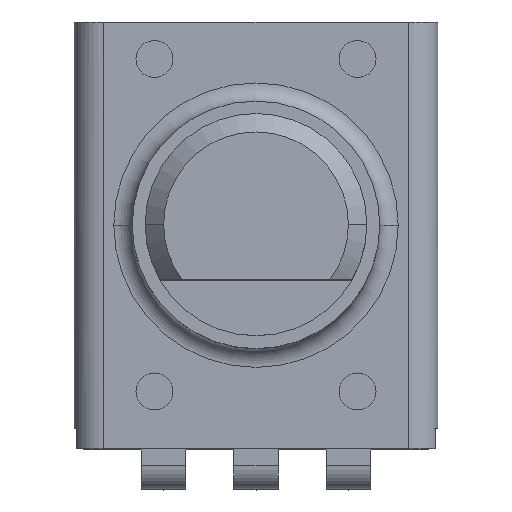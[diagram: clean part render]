
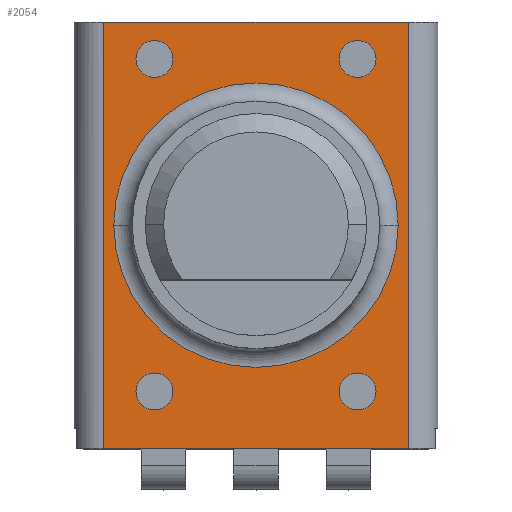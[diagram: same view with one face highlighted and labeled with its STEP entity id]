
A CAD part, top view. The second image highlights one B-rep face of the part: STEP entity #2054.
In plain terms, the highlighted planar face has unit normal (0, 0, 1).
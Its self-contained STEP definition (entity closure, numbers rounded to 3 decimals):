
#153 = FACE_BOUND ( 'NONE', #12612, .T. ) ;
#273 = AXIS2_PLACEMENT_3D ( 'NONE', #11694, #4042, #1233 ) ;
#540 = AXIS2_PLACEMENT_3D ( 'NONE', #6388, #12444, #3274 ) ;
#655 = VERTEX_POINT ( 'NONE', #6150 ) ;
#677 = DIRECTION ( 'NONE',  ( 1., 0., 0. ) ) ;
#858 = CIRCLE ( 'NONE', #4998, 0.5 ) ;
#949 = AXIS2_PLACEMENT_3D ( 'NONE', #9817, #9915, #677 ) ;
#1085 = AXIS2_PLACEMENT_3D ( 'NONE', #4431, #19474, #8788 ) ;
#1221 = CARTESIAN_POINT ( 'NONE',  ( -4.125, -6.05, 6.8 ) ) ;
#1233 = DIRECTION ( 'NONE',  ( 1., 0., 0. ) ) ;
#1238 = ORIENTED_EDGE ( 'NONE', *, *, #5822, .T. ) ;
#1321 = ORIENTED_EDGE ( 'NONE', *, *, #11795, .T. ) ;
#1511 = VERTEX_POINT ( 'NONE', #1221 ) ;
#1935 = CARTESIAN_POINT ( 'NONE',  ( -2.75, -4.5, 6.8 ) ) ;
#1951 = CIRCLE ( 'NONE', #949, 3.85 ) ;
#2054 = ADVANCED_FACE ( 'NONE', ( #3020, #15386, #7760, #13889, #153, #6236 ), #6545, .T. ) ;
#2104 = DIRECTION ( 'NONE',  ( 0., 0., -1. ) ) ;
#2107 = VERTEX_POINT ( 'NONE', #19353 ) ;
#2160 = EDGE_CURVE ( 'NONE', #655, #2107, #14743, .T. ) ;
#2636 = VERTEX_POINT ( 'NONE', #9306 ) ;
#2993 = VERTEX_POINT ( 'NONE', #14380 ) ;
#3020 = FACE_BOUND ( 'NONE', #11289, .T. ) ;
#3036 = AXIS2_PLACEMENT_3D ( 'NONE', #19082, #11497, #9989 ) ;
#3274 = DIRECTION ( 'NONE',  ( 1., 0., 0. ) ) ;
#3334 = CIRCLE ( 'NONE', #14536, 3.85 ) ;
#3352 = CARTESIAN_POINT ( 'NONE',  ( 2.75, 4.5, 6.8 ) ) ;
#3394 = DIRECTION ( 'NONE',  ( -1., 0., 0. ) ) ;
#3618 = ORIENTED_EDGE ( 'NONE', *, *, #17534, .T. ) ;
#3638 = CARTESIAN_POINT ( 'NONE',  ( 7.769, 3.35, 6.8 ) ) ;
#4042 = DIRECTION ( 'NONE',  ( 0., 0., 1. ) ) ;
#4076 = CARTESIAN_POINT ( 'NONE',  ( -3.25, -4.5, 6.8 ) ) ;
#4262 = VERTEX_POINT ( 'NONE', #17225 ) ;
#4421 = DIRECTION ( 'NONE',  ( 1., 0., 0. ) ) ;
#4431 = CARTESIAN_POINT ( 'NONE',  ( -2.75, 4.5, 6.8 ) ) ;
#4471 = VERTEX_POINT ( 'NONE', #9078 ) ;
#4624 = CARTESIAN_POINT ( 'NONE',  ( -4.125, 3.35, 6.8 ) ) ;
#4781 = VECTOR ( 'NONE', #13878, 1000. ) ;
#4813 = ORIENTED_EDGE ( 'NONE', *, *, #12793, .F. ) ;
#4998 = AXIS2_PLACEMENT_3D ( 'NONE', #10281, #16370, #4421 ) ;
#5021 = EDGE_LOOP ( 'NONE', ( #1238, #13233, #5501, #7942 ) ) ;
#5501 = ORIENTED_EDGE ( 'NONE', *, *, #17193, .T. ) ;
#5822 = EDGE_CURVE ( 'NONE', #1511, #655, #16163, .T. ) ;
#5828 = CIRCLE ( 'NONE', #12928, 0.5 ) ;
#6013 = ORIENTED_EDGE ( 'NONE', *, *, #15779, .F. ) ;
#6150 = CARTESIAN_POINT ( 'NONE',  ( 4.125, -6.05, 6.8 ) ) ;
#6236 = FACE_OUTER_BOUND ( 'NONE', #5021, .T. ) ;
#6388 = CARTESIAN_POINT ( 'NONE',  ( 2.75, -4.5, 6.8 ) ) ;
#6395 = VERTEX_POINT ( 'NONE', #9889 ) ;
#6414 = ORIENTED_EDGE ( 'NONE', *, *, #7709, .F. ) ;
#6545 = PLANE ( 'NONE',  #17341 ) ;
#7068 = VECTOR ( 'NONE', #16074, 1000. ) ;
#7441 = AXIS2_PLACEMENT_3D ( 'NONE', #3352, #9185, #9486 ) ;
#7678 = EDGE_CURVE ( 'NONE', #14490, #4262, #18321, .T. ) ;
#7709 = EDGE_CURVE ( 'NONE', #4262, #14490, #5828, .T. ) ;
#7760 = FACE_BOUND ( 'NONE', #14137, .T. ) ;
#7942 = ORIENTED_EDGE ( 'NONE', *, *, #18742, .F. ) ;
#7998 = EDGE_LOOP ( 'NONE', ( #17415, #4813 ) ) ;
#8149 = DIRECTION ( 'NONE',  ( 0., 0., 1. ) ) ;
#8309 = EDGE_CURVE ( 'NONE', #2636, #12919, #11683, .T. ) ;
#8788 = DIRECTION ( 'NONE',  ( 1., 0., 0. ) ) ;
#9078 = CARTESIAN_POINT ( 'NONE',  ( -3.85, 0., 6.8 ) ) ;
#9083 = CARTESIAN_POINT ( 'NONE',  ( 3.25, -4.5, 6.8 ) ) ;
#9185 = DIRECTION ( 'NONE',  ( 0., 0., 1. ) ) ;
#9229 = CIRCLE ( 'NONE', #273, 0.5 ) ;
#9306 = CARTESIAN_POINT ( 'NONE',  ( -2.25, 4.5, 6.8 ) ) ;
#9486 = DIRECTION ( 'NONE',  ( 1., 0., 0. ) ) ;
#9594 = ORIENTED_EDGE ( 'NONE', *, *, #13196, .F. ) ;
#9817 = CARTESIAN_POINT ( 'NONE',  ( 0., 0., 6.8 ) ) ;
#9839 = CARTESIAN_POINT ( 'NONE',  ( 0., 0., 6.8 ) ) ;
#9889 = CARTESIAN_POINT ( 'NONE',  ( 3.25, 4.5, 6.8 ) ) ;
#9915 = DIRECTION ( 'NONE',  ( 0., 0., -1. ) ) ;
#9989 = DIRECTION ( 'NONE',  ( 1., 0., 0. ) ) ;
#10281 = CARTESIAN_POINT ( 'NONE',  ( -2.75, 4.5, 6.8 ) ) ;
#10565 = CARTESIAN_POINT ( 'NONE',  ( -4.125, 5.5, 6.8 ) ) ;
#11013 = CIRCLE ( 'NONE', #7441, 0.5 ) ;
#11055 = CARTESIAN_POINT ( 'NONE',  ( 4.925, 5.5, 6.8 ) ) ;
#11073 = CARTESIAN_POINT ( 'NONE',  ( -2.75, -4.5, 6.8 ) ) ;
#11289 = EDGE_LOOP ( 'NONE', ( #3618, #1321 ) ) ;
#11497 = DIRECTION ( 'NONE',  ( 0., 0., 1. ) ) ;
#11683 = CIRCLE ( 'NONE', #1085, 0.5 ) ;
#11694 = CARTESIAN_POINT ( 'NONE',  ( 2.75, -4.5, 6.8 ) ) ;
#11795 = EDGE_CURVE ( 'NONE', #4471, #2993, #3334, .T. ) ;
#11835 = VECTOR ( 'NONE', #3394, 1000. ) ;
#12218 = VERTEX_POINT ( 'NONE', #13315 ) ;
#12444 = DIRECTION ( 'NONE',  ( 0., 0., 1. ) ) ;
#12612 = EDGE_LOOP ( 'NONE', ( #13450, #9594 ) ) ;
#12685 = DIRECTION ( 'NONE',  ( 0., 0., 1. ) ) ;
#12793 = EDGE_CURVE ( 'NONE', #12218, #17765, #17514, .T. ) ;
#12919 = VERTEX_POINT ( 'NONE', #16585 ) ;
#12928 = AXIS2_PLACEMENT_3D ( 'NONE', #1935, #12685, #17167 ) ;
#12949 = VERTEX_POINT ( 'NONE', #15086 ) ;
#12972 = DIRECTION ( 'NONE',  ( 1., 0., 0. ) ) ;
#13073 = DIRECTION ( 'NONE',  ( 1., 0., 0. ) ) ;
#13161 = EDGE_CURVE ( 'NONE', #6395, #12949, #15610, .T. ) ;
#13196 = EDGE_CURVE ( 'NONE', #12919, #2636, #858, .T. ) ;
#13233 = ORIENTED_EDGE ( 'NONE', *, *, #2160, .T. ) ;
#13241 = DIRECTION ( 'NONE',  ( 1., 0., 0. ) ) ;
#13315 = CARTESIAN_POINT ( 'NONE',  ( 2.25, -4.5, 6.8 ) ) ;
#13450 = ORIENTED_EDGE ( 'NONE', *, *, #8309, .F. ) ;
#13878 = DIRECTION ( 'NONE',  ( 0., 1., 0. ) ) ;
#13889 = FACE_BOUND ( 'NONE', #18799, .T. ) ;
#13974 = LINE ( 'NONE', #4624, #4781 ) ;
#14137 = EDGE_LOOP ( 'NONE', ( #6414, #14826 ) ) ;
#14380 = CARTESIAN_POINT ( 'NONE',  ( 3.85, 0., 6.8 ) ) ;
#14465 = CARTESIAN_POINT ( 'NONE',  ( 4.125, 3.35, 6.8 ) ) ;
#14490 = VERTEX_POINT ( 'NONE', #4076 ) ;
#14536 = AXIS2_PLACEMENT_3D ( 'NONE', #9839, #2104, #13241 ) ;
#14743 = LINE ( 'NONE', #14465, #7068 ) ;
#14799 = AXIS2_PLACEMENT_3D ( 'NONE', #11073, #8149, #12972 ) ;
#14826 = ORIENTED_EDGE ( 'NONE', *, *, #7678, .F. ) ;
#15086 = CARTESIAN_POINT ( 'NONE',  ( 2.25, 4.5, 6.8 ) ) ;
#15276 = VECTOR ( 'NONE', #13073, 1000. ) ;
#15386 = FACE_BOUND ( 'NONE', #7998, .T. ) ;
#15502 = DIRECTION ( 'NONE',  ( 0., 0., 1. ) ) ;
#15610 = CIRCLE ( 'NONE', #3036, 0.5 ) ;
#15779 = EDGE_CURVE ( 'NONE', #12949, #6395, #11013, .T. ) ;
#16054 = VERTEX_POINT ( 'NONE', #10565 ) ;
#16074 = DIRECTION ( 'NONE',  ( 0., 1., 0. ) ) ;
#16163 = LINE ( 'NONE', #17369, #15276 ) ;
#16370 = DIRECTION ( 'NONE',  ( 0., 0., 1. ) ) ;
#16585 = CARTESIAN_POINT ( 'NONE',  ( -3.25, 4.5, 6.8 ) ) ;
#17151 = LINE ( 'NONE', #11055, #11835 ) ;
#17167 = DIRECTION ( 'NONE',  ( 1., 0., 0. ) ) ;
#17193 = EDGE_CURVE ( 'NONE', #2107, #16054, #17151, .T. ) ;
#17225 = CARTESIAN_POINT ( 'NONE',  ( -2.25, -4.5, 6.8 ) ) ;
#17341 = AXIS2_PLACEMENT_3D ( 'NONE', #3638, #15502, #18778 ) ;
#17369 = CARTESIAN_POINT ( 'NONE',  ( -4.925, -6.05, 6.8 ) ) ;
#17415 = ORIENTED_EDGE ( 'NONE', *, *, #19427, .F. ) ;
#17514 = CIRCLE ( 'NONE', #540, 0.5 ) ;
#17534 = EDGE_CURVE ( 'NONE', #2993, #4471, #1951, .T. ) ;
#17765 = VERTEX_POINT ( 'NONE', #9083 ) ;
#18219 = ORIENTED_EDGE ( 'NONE', *, *, #13161, .F. ) ;
#18321 = CIRCLE ( 'NONE', #14799, 0.5 ) ;
#18742 = EDGE_CURVE ( 'NONE', #1511, #16054, #13974, .T. ) ;
#18778 = DIRECTION ( 'NONE',  ( 1., 0., 0. ) ) ;
#18799 = EDGE_LOOP ( 'NONE', ( #18219, #6013 ) ) ;
#19082 = CARTESIAN_POINT ( 'NONE',  ( 2.75, 4.5, 6.8 ) ) ;
#19353 = CARTESIAN_POINT ( 'NONE',  ( 4.125, 5.5, 6.8 ) ) ;
#19427 = EDGE_CURVE ( 'NONE', #17765, #12218, #9229, .T. ) ;
#19474 = DIRECTION ( 'NONE',  ( 0., 0., 1. ) ) ;
